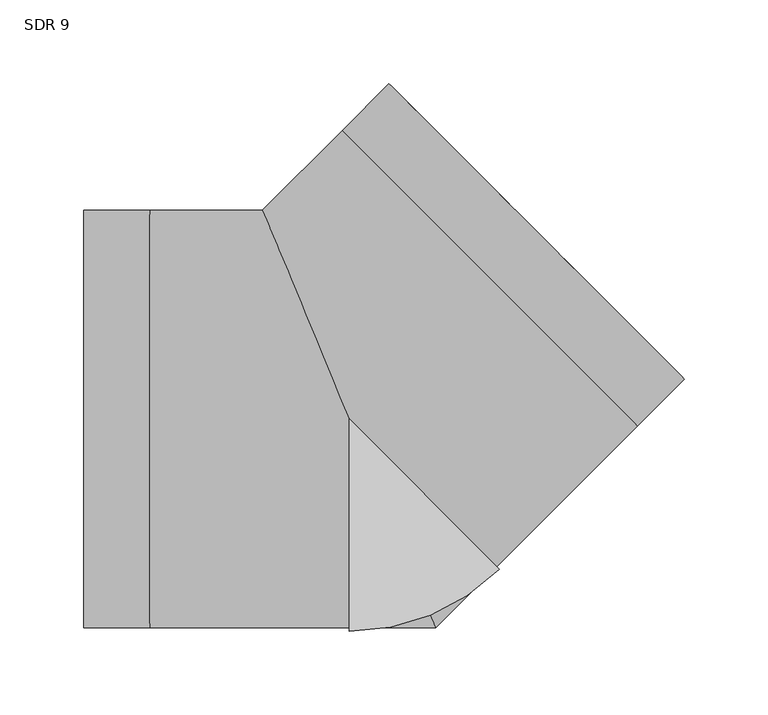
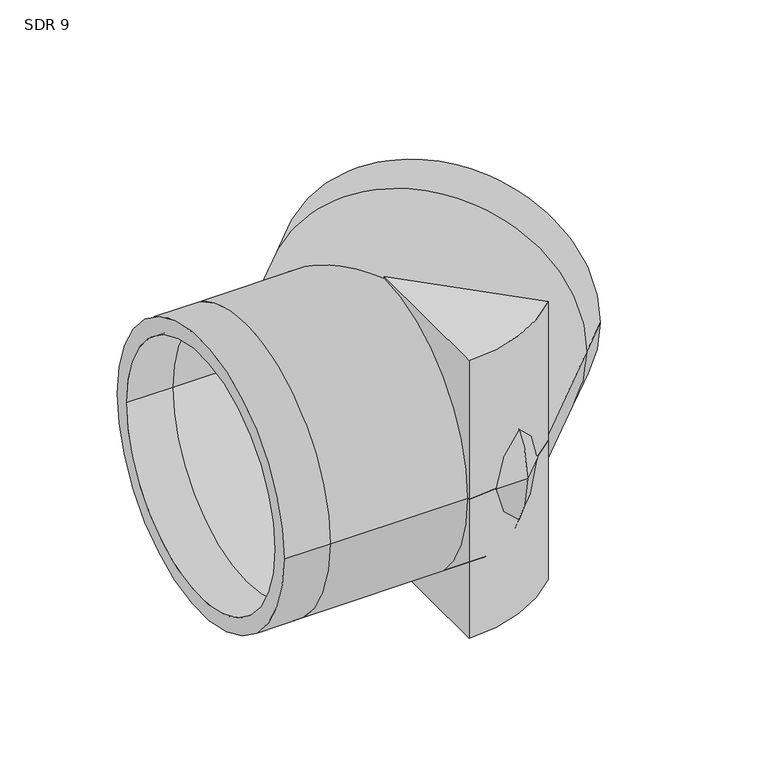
"""IFC4 building model written with IfcOpenShell, lengths in millimetres: pipe fitting geometry, Aquatherm - Elbow Blue BW Segmented : SDR 9."""

from ifc_helpers import new_model, si_unit, point, frame, origin, origin_with_axes, origin_2d, place, context, project, spatial, polyline, circle_curve, ellipse_curve, trimmed, segment, composite_curve, outline, extrude, source, transform, mapped, element, save
from ifc_brep_helpers import plane_surface, cylinder_surface, revolved_surface, advanced_brep


def sdr_9_5ca85642(model_context):
    return source(origin(), model_context, "Body", "SolidModel", [
        extrude(outline(composite_curve([segment(polyline([(0.0, -127.0), (0.0, 0.0), (89.8025612, -89.8025612)]), True, "CONTINUOUS"), segment(trimmed(circle_curve(origin_2d(), 127.0), [point((89.8025612, -89.8025612))], [point((0.0, -127.0))], False, "CARTESIAN"), True, "CONTINUOUS")], self_intersect=False)), frame((0.0, 0.0, -127.0), z_axis=(0.0, 0.0, 1.0), x_axis=(1.0, 0.0, 0.0)), (0.0, 0.0, 1.0), 127.0),
        extrude(outline(composite_curve([segment(trimmed(circle_curve(origin_2d(), 127.0), [point((89.8025612, -89.8025612))], [point((0.0, -127.0))], False, "CARTESIAN"), True, "CONTINUOUS"), segment(polyline([(0.0, -127.0), (0.0, 0.0), (89.8025612, -89.8025612)]), True, "CONTINUOUS")], self_intersect=False)), origin_with_axes(), (0.0, 0.0, 1.0), 127.0),
        advanced_brep(
        [(-158.75, -124.968, 0.0), (-158.75, 124.968, 0.0), (-158.75, -110.7683515, 0.0), (-158.75, 110.7683515, 0.0), (200.6189217, 23.8874813, 0.0), (23.8874813, 200.6189217, 0.0), (190.578254, 33.928149, 0.0), (33.928149, 190.578254, 0.0), (-119.0625, -124.968, 0.0), (-119.0625, 124.968, 0.0), (-119.0625, -110.7683515, 0.0), (-119.0625, 110.7683515, 0.0), (51.7634405, -124.968, 0.0), (-51.7634405, 124.968, 0.0), (45.8817535, -110.7683515, 0.0), (-45.8817535, 110.7683515, 0.0), (172.5556214, -4.1758191, 0.0), (-4.1758191, 172.5556214, 0.0), (162.5149536, 5.8648486, 0.0), (5.8648486, 162.5149536, 0.0)],
        [
            (0, 1, circle_curve(frame((-158.75, 0.0, 0.0), z_axis=(-1.0, 0.0, 0.0), x_axis=(0.0, 1.0, 0.0)), 124.968)),
            (1, 0, circle_curve(frame((-158.75, 0.0, 0.0), z_axis=(-1.0, 0.0, 0.0), x_axis=(0.0, 1.0, 0.0)), 124.968)),
            (2, 3, circle_curve(frame((-158.75, 0.0, 0.0), z_axis=(1.0, 0.0, 0.0), x_axis=(0.0, 1.0, 0.0)), 110.7683515)),
            (3, 2, circle_curve(frame((-158.75, 0.0, 0.0), z_axis=(1.0, 0.0, 0.0), x_axis=(0.0, 1.0, 0.0)), 110.7683515)),
            (4, 5, circle_curve(frame((112.2532015, 112.2532015, 0.0), z_axis=(0.7071067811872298, 0.7071067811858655, 0.0), x_axis=(-0.7071067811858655, 0.7071067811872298, 0.0)), 124.968)),
            (5, 4, circle_curve(frame((112.2532015, 112.2532015, 0.0), z_axis=(0.7071067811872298, 0.7071067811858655, 0.0), x_axis=(-0.7071067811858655, 0.7071067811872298, 0.0)), 124.968)),
            (6, 7, circle_curve(frame((112.2532015, 112.2532015, 0.0), z_axis=(-0.7071067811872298, -0.7071067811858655, 0.0), x_axis=(-0.7071067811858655, 0.7071067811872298, 0.0)), 110.7683515)),
            (7, 6, circle_curve(frame((112.2532015, 112.2532015, 0.0), z_axis=(-0.7071067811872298, -0.7071067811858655, 0.0), x_axis=(-0.7071067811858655, 0.7071067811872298, 0.0)), 110.7683515)),
            (0, 8),
            (8, 9, circle_curve(frame((-119.0625, 0.0, 0.0), z_axis=(-1.0, 0.0, 0.0), x_axis=(0.0, 1.0, 0.0)), 124.968)),
            (9, 1),
            (9, 8, circle_curve(frame((-119.0625, 0.0, 0.0), z_axis=(-1.0, 0.0, 0.0), x_axis=(0.0, 1.0, 0.0)), 124.968)),
            (2, 10),
            (10, 11, circle_curve(frame((-119.0625, 0.0, 0.0), z_axis=(1.0, 0.0, 0.0), x_axis=(0.0, 1.0, 0.0)), 110.7683515)),
            (11, 3),
            (11, 10, circle_curve(frame((-119.0625, 0.0, 0.0), z_axis=(1.0, 0.0, 0.0), x_axis=(0.0, 1.0, 0.0)), 110.7683515)),
            (8, 12),
            (12, 13, ellipse_curve(frame((0.0, 0.0, 0.0), z_axis=(-0.9238795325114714, -0.38268343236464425, 0.0), x_axis=(-0.3826834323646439, 0.9238795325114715, 0.0)), 135.2643885, 124.968)),
            (13, 9),
            (13, 12, ellipse_curve(frame((0.0, 0.0, 0.0), z_axis=(-0.9238795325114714, -0.38268343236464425, 0.0), x_axis=(-0.3826834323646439, 0.9238795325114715, 0.0)), 135.2643885, 124.968)),
            (10, 14),
            (14, 15, ellipse_curve(frame((0.0, 0.0, 0.0), z_axis=(0.9238795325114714, 0.38268343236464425, 0.0), x_axis=(0.3826834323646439, -0.9238795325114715, 0.0)), 119.8947997, 110.7683515)),
            (15, 11),
            (15, 14, ellipse_curve(frame((0.0, 0.0, 0.0), z_axis=(0.9238795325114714, 0.38268343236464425, 0.0), x_axis=(0.3826834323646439, -0.9238795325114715, 0.0)), 119.8947997, 110.7683515)),
            (12, 16),
            (16, 17, circle_curve(frame((84.1899011, 84.1899011, 0.0), z_axis=(-0.7071067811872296, -0.7071067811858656, 0.0), x_axis=(-0.7071067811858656, 0.7071067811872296, 0.0)), 124.968)),
            (17, 13),
            (17, 16, circle_curve(frame((84.1899011, 84.1899011, 0.0), z_axis=(-0.7071067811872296, -0.7071067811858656, 0.0), x_axis=(-0.7071067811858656, 0.7071067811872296, 0.0)), 124.968)),
            (14, 18),
            (18, 19, circle_curve(frame((84.1899011, 84.1899011, 0.0), z_axis=(0.7071067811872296, 0.7071067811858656, 0.0), x_axis=(-0.7071067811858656, 0.7071067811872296, 0.0)), 110.7683515)),
            (19, 15),
            (19, 18, circle_curve(frame((84.1899011, 84.1899011, 0.0), z_axis=(0.7071067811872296, 0.7071067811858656, 0.0), x_axis=(-0.7071067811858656, 0.7071067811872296, 0.0)), 110.7683515)),
            (16, 4),
            (5, 17),
            (18, 6),
            (7, 19),
        ],
        [
            plane_surface(frame((-158.75, 0.0, 0.0), z_axis=(-1.0, 0.0, 0.0), x_axis=(0.0, 0.0, 1.0))),
            plane_surface(frame((112.2532015, 112.2532015, 0.0), z_axis=(0.7071067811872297, 0.7071067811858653, 0.0), x_axis=(0.0, 0.0, 1.0))),
            cylinder_surface(frame((-158.75, 0.0, 0.0), z_axis=(-1.0, 0.0, 0.0), x_axis=(0.0, 1.0, 0.0)), 124.968),
            revolved_surface(polyline([(-119.0625, 110.7683515, 0.0), (-158.75, 110.7683515, 0.0)]), (-158.75, 0.0, 0.0), (1.0, 0.0, 0.0)),
            cylinder_surface(frame((-119.0625, 0.0, 0.0), z_axis=(-1.0, 0.0, 0.0), x_axis=(0.0, 1.0, 0.0)), 124.968),
            revolved_surface(polyline([(45.8817535, 110.7683515, 0.0), (-119.0625, 110.7683515, 0.0)]), (-119.0625, 0.0, 0.0), (1.0, 0.0, 0.0)),
            cylinder_surface(frame((0.0, 0.0, 0.0), z_axis=(-0.7071067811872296, -0.7071067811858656, 0.0), x_axis=(-0.7071067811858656, 0.7071067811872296, 0.0)), 124.968),
            revolved_surface(polyline([(5.864848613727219, 162.514953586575, 0.0), (-110.7683514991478, 45.88175347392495, 0.0)]), (0.0, 0.0, 0.0), (0.7071067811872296, 0.7071067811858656, 0.0)),
            cylinder_surface(frame((84.1899011, 84.1899011, 0.0), z_axis=(-0.7071067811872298, -0.7071067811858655, 0.0), x_axis=(-0.7071067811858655, 0.7071067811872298, 0.0)), 124.968),
            revolved_surface(polyline([(33.92814901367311, 190.57825398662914, 0.0), (5.864848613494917, 162.5149535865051, 0.0)]), (84.1899011, 84.1899011, 0.0), (0.7071067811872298, 0.7071067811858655, 0.0)),
        ],
        [
            (0, [[1, 2], [3, 4]]),
            (1, [[5, 6], [7, 8]]),
            (2, [[-1, 9, 10, 11]]),
            (2, [[-2, -11, 12, -9]]),
            (3, [[-3, 13, 14, 15]]),
            (3, [[-4, -15, 16, -13]]),
            (4, [[-10, 17, 18, 19]]),
            (4, [[-12, -19, 20, -17]]),
            (5, [[-14, 21, 22, 23]]),
            (5, [[-16, -23, 24, -21]]),
            (6, [[-18, 25, 26, 27]]),
            (6, [[-20, -27, 28, -25]]),
            (7, [[-22, 29, 30, 31]]),
            (7, [[-24, -31, 32, -29]]),
            (8, [[-26, 33, -6, 34]]),
            (8, [[-28, -34, -5, -33]]),
            (9, [[-30, 35, -8, 36]]),
            (9, [[-32, -36, -7, -35]]),
        ],
    ),
    ])


if __name__ == "__main__":
    model = new_model("IFC4")
    model_context = context("Model", 3, world=origin())
    ifc_project = project(units=[si_unit("LENGTHUNIT", "METRE", prefix="MILLI")], contexts=[model_context])
    site = spatial("IfcSite", under=ifc_project)
    building = spatial("IfcBuilding", under=site)
    placement = place(None, origin())
    sdr_9_shape = sdr_9_5ca85642(model_context)
    element("IfcPipeFitting", 1, ObjectType="Aquatherm - Elbow Blue BW Segmented : SDR 9", at=placement, inside=building, context=model_context, shape_type="MappedRepresentation", body=[
        mapped(sdr_9_shape, transform((0.0, 0.0, 0.0), x_axis=(1.0, 0.0, 0.0), y_axis=(0.0, 1.0, 0.0), z_axis=(0.0, 0.0, 1.0))),
    ])
    save(model, "model.ifc")
